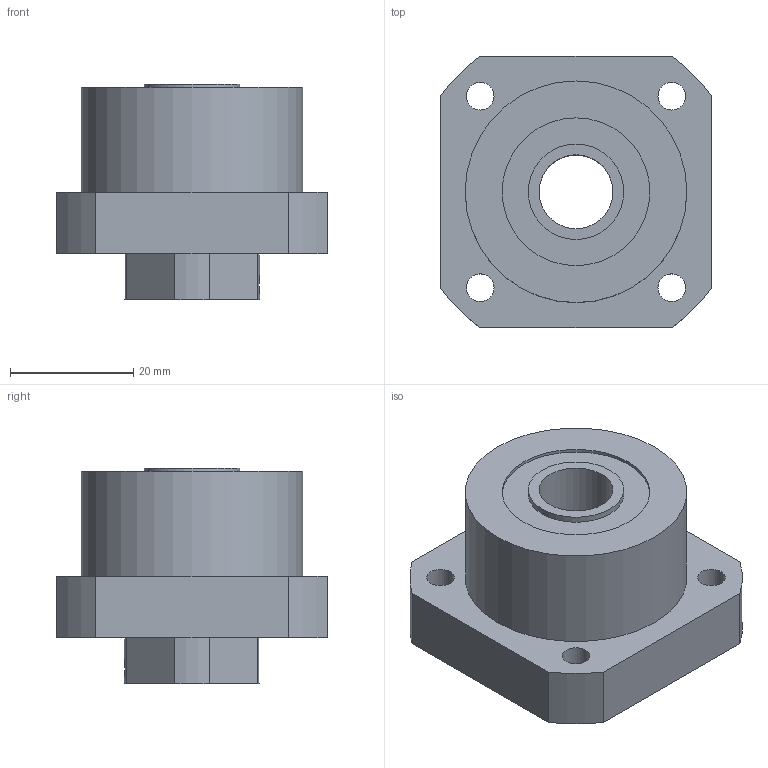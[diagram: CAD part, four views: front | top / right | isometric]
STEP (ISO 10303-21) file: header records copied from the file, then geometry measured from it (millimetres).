
FILE_DESCRIPTION(/* description */ (''),/* implementation_level */ '2;1');
FILE_NAME(/* name */ 'C:\Users\tenki620635\Desktop\官網\圖面\軸承座\3D\setp檔\FK12-Atype.stp',/* time_stamp */ '2020-12-18T19:55:38+08:00',/* author */ ('tenki620635'),/* organization */ (''),/* preprocessor_version */ 'ST-DEVELOPER v15.2',/* originating_system */ 'Autodesk Inventor 2014',/* authorisation */ '');
FILE_SCHEMA (('AUTOMOTIVE_DESIGN { 1 0 10303 214 3 1 1 }'));
Length unit declared in the file: millimetre
Products named in the file (1): FK12-Atype
Bounding box: 44 x 44 x 35 mm (x, y, z)
Volume: 32801.8 mm3; surface area: 10092.1 mm2
Topology: 1 solids, 1 shells, 46 faces, 106 edges, 72 vertices
Faces by surface type: cylinder 25, plane 21
Full cylindrical faces by diameter (mm): 3.242 x2, 4.5 x4, 8 x4, 12 x1, 15.5 x2, 16 x1, 24 x2, 36 x1
Entity records: 1375 total; most frequent: CARTESIAN_POINT 335, DIRECTION 218, ORIENTED_EDGE 168, AXIS2_PLACEMENT_3D 93, EDGE_LOOP 88, EDGE_CURVE 84, VERTEX_POINT 68, FACE_BOUND 52
